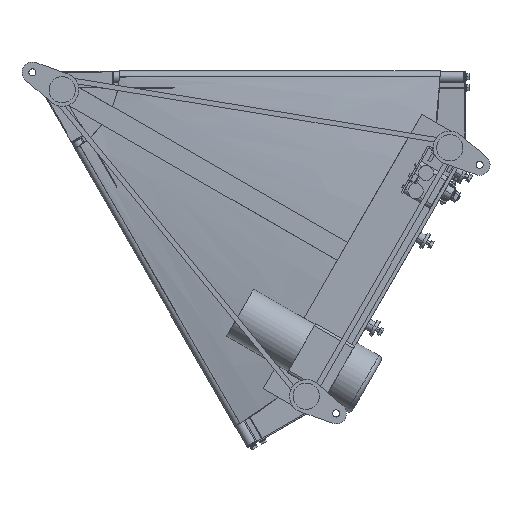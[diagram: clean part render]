
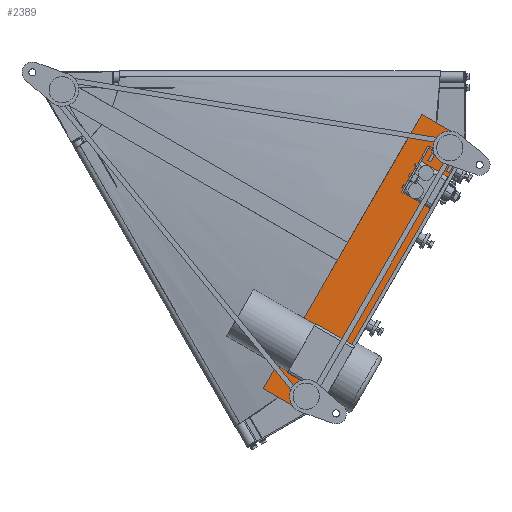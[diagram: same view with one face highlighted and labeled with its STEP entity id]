
A CAD part, front view. The second image highlights one B-rep face of the part: STEP entity #2389.
In plain terms, the highlighted planar face has unit normal (0, -1, 0).
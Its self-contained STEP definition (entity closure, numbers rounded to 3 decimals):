
#2389=ADVANCED_FACE('',(#6619),#6618,.F.);
#6618=PLANE('',#17197);
#6619=FACE_OUTER_BOUND('',#17198,.T.);
#17194=CARTESIAN_POINT('',(409.235,-167.5,-609.44));
#17195=DIRECTION('',(0.,1.,0.));
#17196=DIRECTION('',(0.208,0.,0.978));
#17197=AXIS2_PLACEMENT_3D('',#17194,#17195,#17196);
#17198=EDGE_LOOP('',(#22676,#22677,#22678,#22679,#22680,#22681));
#22676=ORIENTED_EDGE('',*,*,#26553,.F.);
#22677=ORIENTED_EDGE('',*,*,#26542,.F.);
#22678=ORIENTED_EDGE('',*,*,#26551,.F.);
#22679=ORIENTED_EDGE('',*,*,#26559,.F.);
#22680=ORIENTED_EDGE('',*,*,#26557,.F.);
#22681=ORIENTED_EDGE('',*,*,#26555,.F.);
#26542=EDGE_CURVE('',#33477,#33478,#33479,.T.);
#26551=EDGE_CURVE('',#33539,#33477,#33540,.T.);
#26553=EDGE_CURVE('',#33478,#33552,#33553,.T.);
#26555=EDGE_CURVE('',#33552,#33565,#33566,.T.);
#26557=EDGE_CURVE('',#33565,#33578,#33579,.T.);
#26559=EDGE_CURVE('',#33578,#33539,#33591,.T.);
#33477=VERTEX_POINT('',#48047);
#33478=VERTEX_POINT('',#48048);
#33479=LINE('',#48049,#48050);
#33539=VERTEX_POINT('',#48082);
#33540=LINE('',#48083,#48084);
#33552=VERTEX_POINT('',#48089);
#33553=LINE('',#48090,#48091);
#33565=VERTEX_POINT('',#48096);
#33566=LINE('',#48097,#48098);
#33578=VERTEX_POINT('',#48103);
#33579=LINE('',#48104,#48105);
#33591=LINE('',#48110,#48111);
#48047=CARTESIAN_POINT('',(715.592,-167.5,-78.284));
#48048=CARTESIAN_POINT('',(776.214,-167.5,-113.284));
#48049=CARTESIAN_POINT('',(715.592,-167.5,-78.284));
#48050=VECTOR('',#48051,70.);
#48051=DIRECTION('',(0.866,0.,-0.5));
#48082=CARTESIAN_POINT('',(425.592,-167.5,-580.579));
#48083=CARTESIAN_POINT('',(425.592,-167.5,-580.579));
#48084=VECTOR('',#48085,580.);
#48085=DIRECTION('',(0.5,0.,0.866));
#48089=CARTESIAN_POINT('',(787.195,-167.5,-154.265));
#48090=CARTESIAN_POINT('',(776.214,-167.5,-113.284));
#48091=VECTOR('',#48092,42.426);
#48092=DIRECTION('',(0.259,0.,-0.966));
#48096=CARTESIAN_POINT('',(527.195,-167.5,-604.598));
#48097=CARTESIAN_POINT('',(787.195,-167.5,-154.265));
#48098=VECTOR('',#48099,520.);
#48099=DIRECTION('',(-0.5,0.,-0.866));
#48103=CARTESIAN_POINT('',(486.214,-167.5,-615.579));
#48104=CARTESIAN_POINT('',(527.195,-167.5,-604.598));
#48105=VECTOR('',#48106,42.426);
#48106=DIRECTION('',(-0.966,0.,-0.259));
#48110=CARTESIAN_POINT('',(486.214,-167.5,-615.579));
#48111=VECTOR('',#48112,70.);
#48112=DIRECTION('',(-0.866,0.,0.5));
